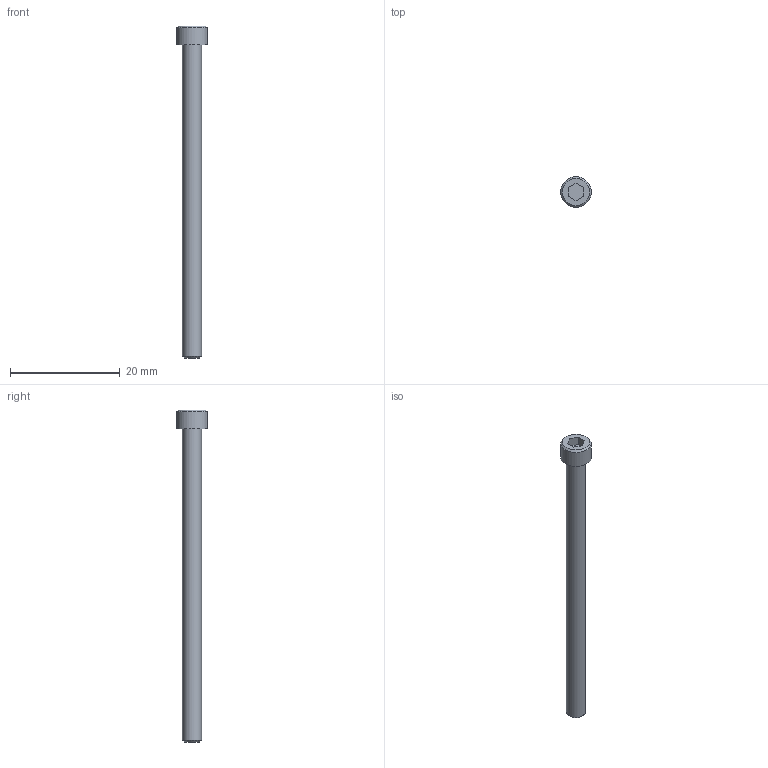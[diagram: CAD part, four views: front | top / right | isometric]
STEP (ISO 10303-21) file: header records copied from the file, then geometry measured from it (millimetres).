
FILE_DESCRIPTION((''),'2;1');
FILE_NAME('C:\Users\Stan\Desktop\import\SHCS 6-32 UNCx2.25.ipt.step','2011-08-18T17:44:49',(''),(''),'Autodesk Inventor 2012','Autodesk Inventor 2012','');
FILE_SCHEMA(('AUTOMOTIVE_DESIGN { 1 0 10303 214 1 1 1 1 }'));
Length unit declared in the file: inch
Products named in the file (1): SHCS 6-32 UNCx2.25
Bounding box: 5.64 x 5.64 x 60.6 mm (x, y, z)
Volume: 625.5 mm3; surface area: 750.2 mm2
Topology: 1 solids, 1 shells, 14 faces, 28 edges, 18 vertices
Faces by surface type: plane 10, cone 2, cylinder 2
Full cylindrical faces by diameter (mm): 3.505 x1, 5.639 x1
Entity records: 391 total; most frequent: DIRECTION 60, CARTESIAN_POINT 57, ORIENTED_EDGE 48, EDGE_CURVE 24, AXIS2_PLACEMENT_3D 21, EDGE_LOOP 20, VERTEX_POINT 18, VECTOR 18
